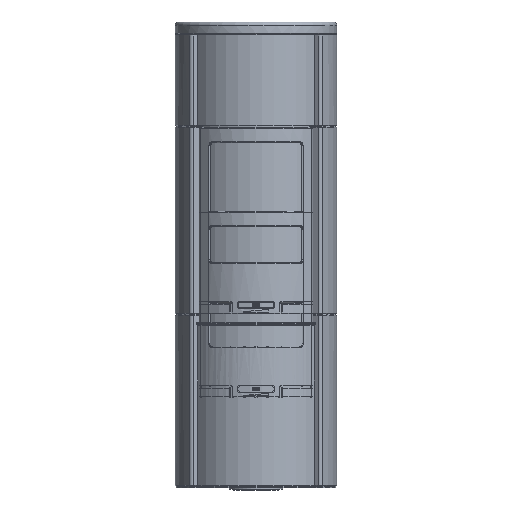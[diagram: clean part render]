
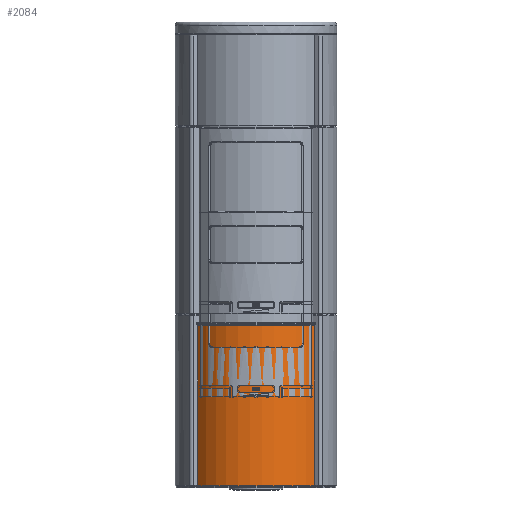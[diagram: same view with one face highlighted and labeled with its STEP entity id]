
A CAD part, front view. The second image highlights one B-rep face of the part: STEP entity #2084.
In plain terms, the highlighted cylindrical face has radius 245 mm (diameter 490 mm), a partial arc.
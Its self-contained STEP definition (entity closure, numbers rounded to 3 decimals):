
#2084 = ADVANCED_FACE( '', ( #5337 ), #5338, .T. );
#5337 = FACE_OUTER_BOUND( '', #17897, .T. );
#5338 = CYLINDRICAL_SURFACE( '', #17898, 245. );
#17897 = EDGE_LOOP( '', ( #50053, #50054, #50055, #50056 ) );
#17898 = AXIS2_PLACEMENT_3D( '', #50057, #50058, #50059 );
#50053 = ORIENTED_EDGE( '', *, *, #63336, .T. );
#50054 = ORIENTED_EDGE( '', *, *, #63337, .F. );
#50055 = ORIENTED_EDGE( '', *, *, #61982, .F. );
#50056 = ORIENTED_EDGE( '', *, *, #63338, .T. );
#50057 = CARTESIAN_POINT( '', ( -0.002, -288.354, 537. ) );
#50058 = DIRECTION( '', ( 0., 0., 1. ) );
#50059 = DIRECTION( '', ( -1., 0., 0. ) );
#61982 = EDGE_CURVE( '', #67366, #67368, #67369, .T. );
#63336 = EDGE_CURVE( '', #69735, #69736, #69737, .T. );
#63337 = EDGE_CURVE( '', #67368, #69736, #69738, .T. );
#63338 = EDGE_CURVE( '', #67366, #69735, #69739, .T. );
#67366 = VERTEX_POINT( '', #75522 );
#67368 = VERTEX_POINT( '', #75524 );
#67369 = CIRCLE( '', #75525, 245. );
#69735 = VERTEX_POINT( '', #81382 );
#69736 = VERTEX_POINT( '', #81383 );
#69737 = CIRCLE( '', #81384, 245. );
#69738 = LINE( '', #81385, #81386 );
#69739 = LINE( '', #81387, #81388 );
#75522 = CARTESIAN_POINT( '', ( -192.755, -439.586, 537. ) );
#75524 = CARTESIAN_POINT( '', ( 192.752, -439.586, 537. ) );
#75525 = AXIS2_PLACEMENT_3D( '', #97012, #97013, #97014 );
#81382 = CARTESIAN_POINT( '', ( -192.755, -439.586, 6.5 ) );
#81383 = CARTESIAN_POINT( '', ( 192.752, -439.586, 6.5 ) );
#81384 = AXIS2_PLACEMENT_3D( '', #98254, #98255, #98256 );
#81385 = CARTESIAN_POINT( '', ( 192.752, -439.586, 537. ) );
#81386 = VECTOR( '', #98257, 1000. );
#81387 = CARTESIAN_POINT( '', ( -192.755, -439.586, 537. ) );
#81388 = VECTOR( '', #98258, 1000. );
#97012 = CARTESIAN_POINT( '', ( -0.002, -288.354, 537. ) );
#97013 = DIRECTION( '', ( 0., 0., 1. ) );
#97014 = DIRECTION( '', ( 1., 0., 0. ) );
#98254 = CARTESIAN_POINT( '', ( -0.002, -288.354, 6.5 ) );
#98255 = DIRECTION( '', ( 0., 0., 1. ) );
#98256 = DIRECTION( '', ( 1., 0., 0. ) );
#98257 = DIRECTION( '', ( 0., 0., -1. ) );
#98258 = DIRECTION( '', ( 0., 0., -1. ) );
